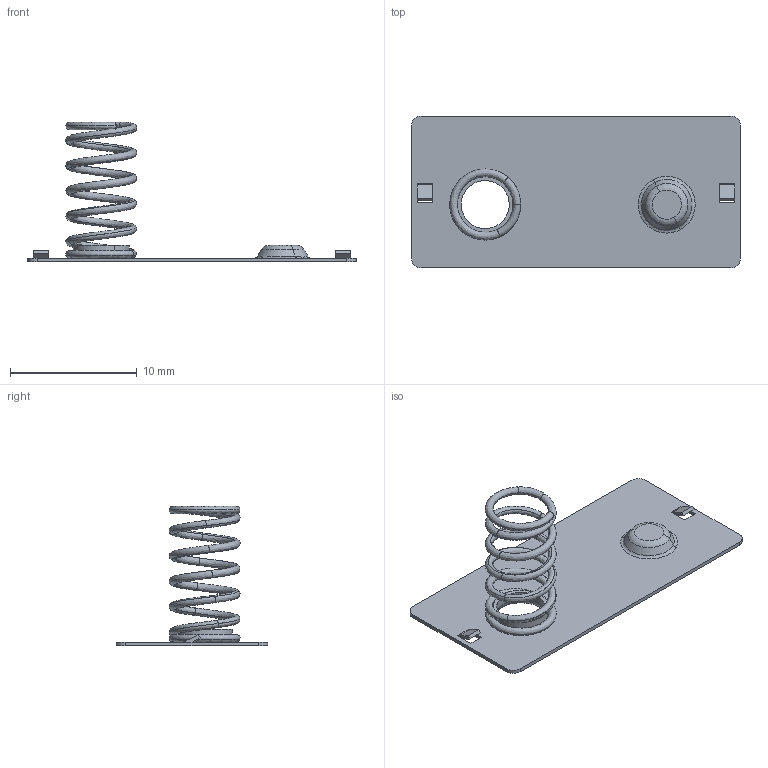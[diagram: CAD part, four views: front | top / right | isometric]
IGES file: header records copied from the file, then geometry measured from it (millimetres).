
Start section: START RECORD GO HERE.
Global section: file name: AA-Batteriekontakt_Bruecke.igs; native system: IBM CATIA IGES - CATIA Version 5 Release 19 ; preprocessor: CATIA Version 5 Release 19 ; author: admin; organization: M0815; date: 20260514.142008; units: millimetre
Bounding box: 26 x 12 x 11.04 mm (x, y, z)
Surface area: 847.6 mm2 (no closed solid volume)
Topology: 0 solids, 0 shells, 86 faces, 410 edges, 410 vertices
Faces by surface type: revolution 33, plane 27, bspline 26
